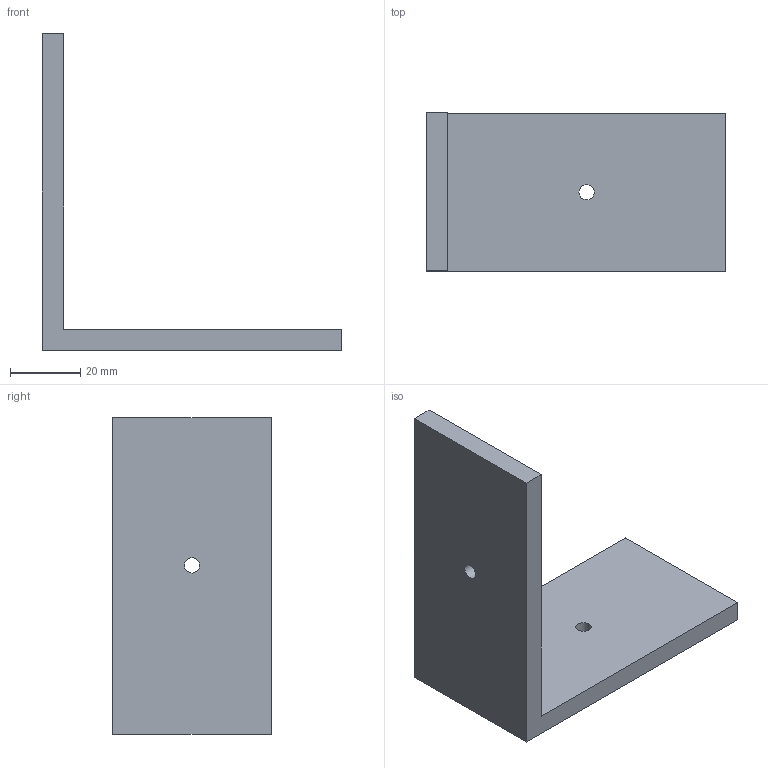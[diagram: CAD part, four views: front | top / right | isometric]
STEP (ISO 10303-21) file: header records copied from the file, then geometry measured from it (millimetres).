
FILE_DESCRIPTION(('Mechanical CAD reference from nasji.com'),'2;1');
FILE_NAME('NASJI.step','',(''),(''),'','NASJI distribution','');
FILE_SCHEMA(('AUTOMOTIVE_DESIGN { 1 0 10303 214 1 1 1 1 }'));
Length unit declared in the file: millimetre
Products named in the file (1): Open CASCADE STEP translator 7.8 165
Bounding box: 85 x 45 x 90 mm (x, y, z)
Volume: 45455.7 mm3; surface area: 17882 mm2
Topology: 1 solids, 1 shells, 10 faces, 24 edges, 16 vertices
Faces by surface type: plane 8, cylinder 2
Full cylindrical faces by diameter (mm): 4.3 x2
Entity records: 626 total; most frequent: CARTESIAN_POINT 113, DIRECTION 94, LINE 62, VECTOR 62, ORIENTED_EDGE 48, PCURVE 48, DEFINITIONAL_REPRESENTATION 48, EDGE_CURVE 24
